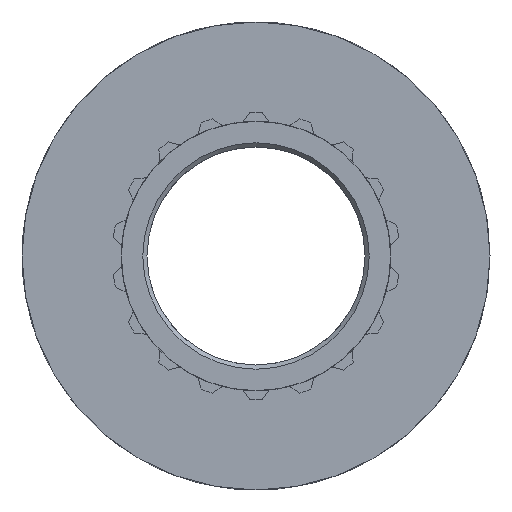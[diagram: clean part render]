
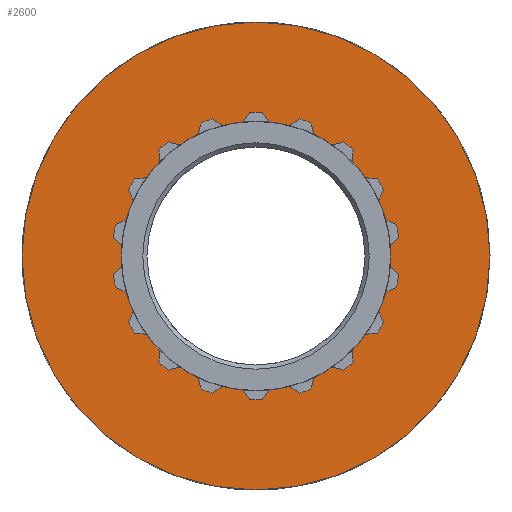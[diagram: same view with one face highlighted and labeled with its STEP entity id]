
A CAD part, left-side view. The second image highlights one B-rep face of the part: STEP entity #2600.
In plain terms, the highlighted planar face has unit normal (-1, 0, 0).
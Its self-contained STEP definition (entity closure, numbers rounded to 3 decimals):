
#21=FACE_BOUND($,#466,.T.);
#86=CIRCLE($,#2712,1.6);
#173=CIRCLE($,#2870,2.78);
#316=FACE_OUTER_BOUND($,#465,.T.);
#465=EDGE_LOOP($,(#2331));
#466=EDGE_LOOP($,(#2332));
#1181=VERTEX_POINT($,#4200);
#1214=VERTEX_POINT($,#4420);
#1473=EDGE_CURVE($,#1181,#1181,#86,.T.);
#1589=EDGE_CURVE($,#1214,#1214,#173,.T.);
#2331=ORIENTED_EDGE($,*,*,#1589,.F.);
#2332=ORIENTED_EDGE($,*,*,#1473,.T.);
#2459=PLANE($,#2869);
#2600=ADVANCED_FACE($,(#316,#21),#2459,.T.);
#2712=AXIS2_PLACEMENT_3D($,#4201,#3308,#3309);
#2869=AXIS2_PLACEMENT_3D($,#4419,#3651,#3652);
#2870=AXIS2_PLACEMENT_3D($,#4421,#3653,#3654);
#3308=DIRECTION('center_axis',(1.,0.,0.));
#3309=DIRECTION('ref_axis',(0.,1.,0.));
#3651=DIRECTION('center_axis',(-1.,0.,0.));
#3652=DIRECTION('ref_axis',(0.,0.,1.));
#3653=DIRECTION('center_axis',(1.,0.,0.));
#3654=DIRECTION('ref_axis',(0.,1.,0.));
#4200=CARTESIAN_POINT('',(3.58,1.6,0.));
#4201=CARTESIAN_POINT('Origin',(3.58,0.,0.));
#4419=CARTESIAN_POINT('Origin',(3.58,2.19,0.));
#4420=CARTESIAN_POINT('',(3.58,2.78,0.));
#4421=CARTESIAN_POINT('Origin',(3.58,0.,0.));
